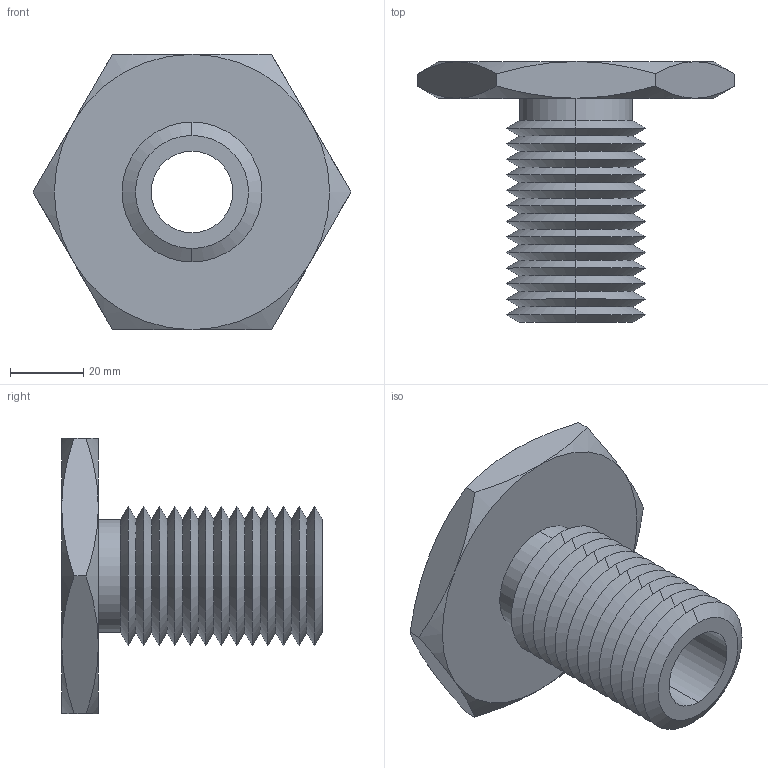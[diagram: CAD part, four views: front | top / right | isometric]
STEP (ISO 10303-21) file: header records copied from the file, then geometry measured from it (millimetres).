
FILE_DESCRIPTION (( 'STEP AP203' ), '1' );
FILE_NAME ('63302.W5150_0,87 UNC-9.step', '2013-12-08T11:47:07', ( 'User' ), ( '' ), 'SwSTEP 2.0', 'SolidWorks 2009', '' );
FILE_SCHEMA (( 'CONFIG_CONTROL_DESIGN' ));
Length unit declared in the file: millimetre
Products named in the file (1): 63302.W5150_0,87 UNC-9
Bounding box: 86.6 x 71 x 75 mm (x, y, z)
Volume: 75819.7 mm3; surface area: 28440.7 mm2
Topology: 1 solids, 1 shells, 79 faces, 162 edges, 86 vertices
Faces by surface type: cone 66, plane 9, cylinder 4
Entity records: 2239 total; most frequent: CARTESIAN_POINT 512, DIRECTION 372, ORIENTED_EDGE 324, EDGE_CURVE 162, AXIS2_PLACEMENT_3D 154, VERTEX_POINT 86, EDGE_LOOP 82, ADVANCED_FACE 79
